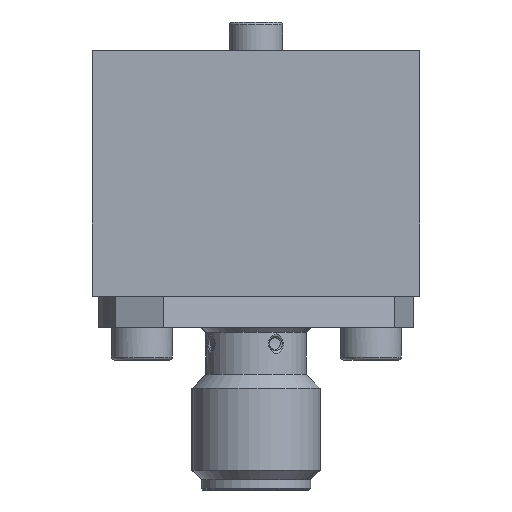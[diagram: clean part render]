
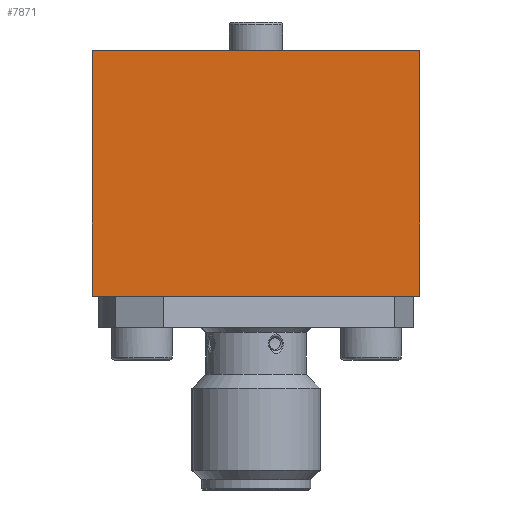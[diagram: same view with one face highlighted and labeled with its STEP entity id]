
A CAD part, left-side view. The second image highlights one B-rep face of the part: STEP entity #7871.
In plain terms, the highlighted planar face has unit normal (-1, 0, 0).
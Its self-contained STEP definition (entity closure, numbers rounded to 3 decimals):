
#599=LINE('',#13738,#879);
#609=LINE('',#13763,#889);
#610=LINE('',#13766,#890);
#611=LINE('',#13767,#891);
#879=VECTOR('',#9533,1000.);
#889=VECTOR('',#9549,1000.);
#890=VECTOR('',#9550,1000.);
#891=VECTOR('',#9551,1000.);
#1070=PLANE('',#8387);
#1980=ORIENTED_EDGE('',*,*,#2885,.F.);
#1981=ORIENTED_EDGE('',*,*,#2886,.F.);
#1982=ORIENTED_EDGE('',*,*,#2873,.T.);
#1983=ORIENTED_EDGE('',*,*,#2887,.T.);
#2873=EDGE_CURVE('',#4131,#4132,#599,.T.);
#2885=EDGE_CURVE('',#4143,#4144,#609,.T.);
#2886=EDGE_CURVE('',#4131,#4143,#610,.T.);
#2887=EDGE_CURVE('',#4132,#4144,#611,.T.);
#3527=EDGE_LOOP('',(#1980,#1981,#1982,#1983));
#4131=VERTEX_POINT('',#13739);
#4132=VERTEX_POINT('',#13740);
#4143=VERTEX_POINT('',#13764);
#4144=VERTEX_POINT('',#13765);
#4680=FACE_BOUND('',#3527,.T.);
#7871=ADVANCED_FACE('',(#4680),#1070,.T.);
#8387=AXIS2_PLACEMENT_3D('',#13762,#9547,#9548);
#9533=DIRECTION('',(0.,-1.,0.));
#9547=DIRECTION('',(-1.,0.,0.));
#9548=DIRECTION('',(0.,0.,1.));
#9549=DIRECTION('',(0.,-1.,0.));
#9550=DIRECTION('',(0.,0.,1.));
#9551=DIRECTION('',(0.,0.,1.));
#13738=CARTESIAN_POINT('',(-41.,8.,-12.));
#13739=CARTESIAN_POINT('',(-41.,8.,-12.));
#13740=CARTESIAN_POINT('',(-41.,-8.,-12.));
#13762=CARTESIAN_POINT('',(-41.,8.,-12.));
#13763=CARTESIAN_POINT('',(-41.,8.,0.));
#13764=CARTESIAN_POINT('',(-41.,8.,0.));
#13765=CARTESIAN_POINT('',(-41.,-8.,0.));
#13766=CARTESIAN_POINT('',(-41.,8.,-12.));
#13767=CARTESIAN_POINT('',(-41.,-8.,-12.));
